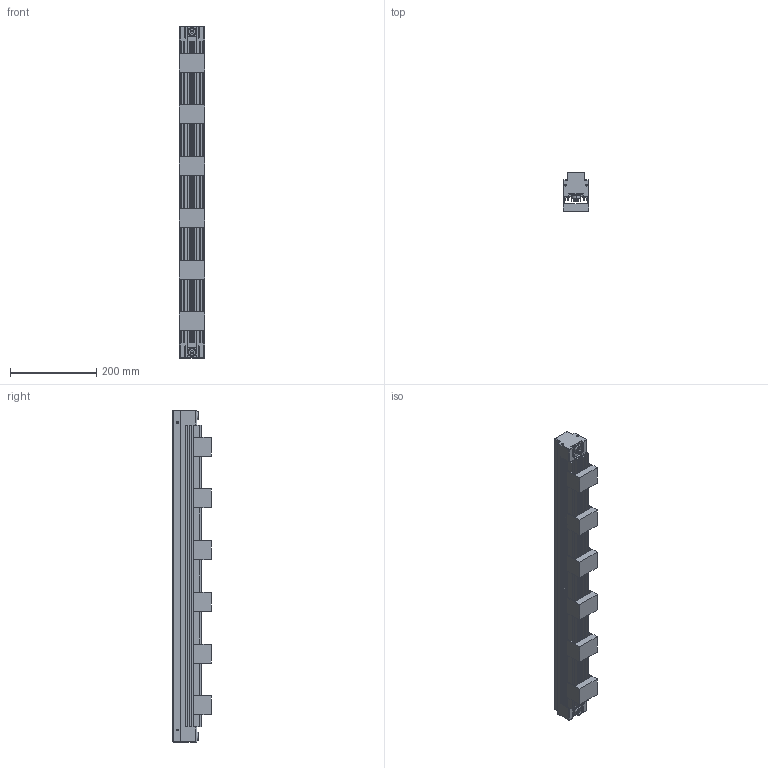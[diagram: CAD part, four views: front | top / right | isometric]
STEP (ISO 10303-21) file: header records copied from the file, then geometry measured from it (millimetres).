
FILE_DESCRIPTION((''),'2;1');
FILE_NAME('MV-LTHS-700-W','2019-09-19T',('win7'),(''),'PRO/ENGINEER BY PARAMETRIC TECHNOLOGY CORPORATION, 2010100','PRO/ENGINEER BY PARAMETRIC TECHNOLOGY CORPORATION, 2010100','');
FILE_SCHEMA(('CONFIG_CONTROL_DESIGN'));
Length unit declared in the file: millimetre
Products named in the file (1): MV-LTHS-700-W
Bounding box: 58 x 90.1 x 770 mm (x, y, z)
Volume: 2518071.6 mm3; surface area: 404449.3 mm2
Topology: 1 solids, 10 shells, 423 faces, 1114 edges, 697 vertices
Faces by surface type: plane 288, cylinder 105, cone 30
Entity records: 12748 total; most frequent: CARTESIAN_POINT 2220, DIRECTION 2174, ORIENTED_EDGE 2136, EDGE_CURVE 1088, VECTOR 848, LINE 848, VERTEX_POINT 697, AXIS2_PLACEMENT_3D 663
